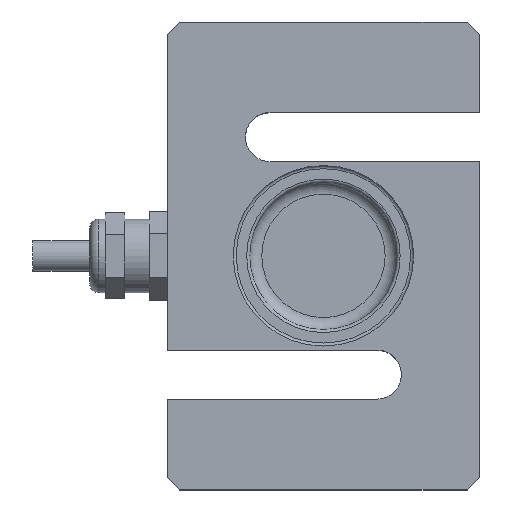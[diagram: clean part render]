
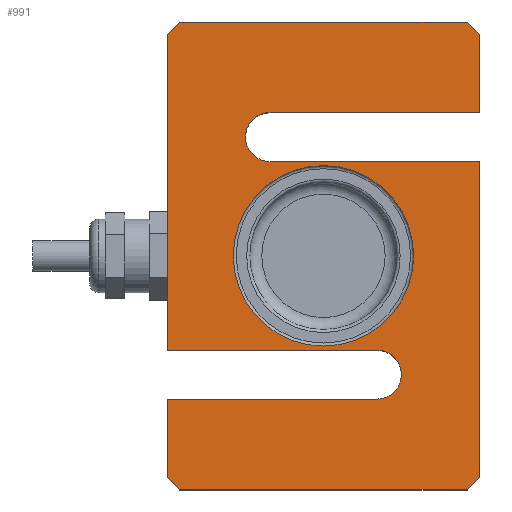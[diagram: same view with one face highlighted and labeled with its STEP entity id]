
A CAD part, top view. The second image highlights one B-rep face of the part: STEP entity #991.
In plain terms, the highlighted planar face has unit normal (0, 0, 1).
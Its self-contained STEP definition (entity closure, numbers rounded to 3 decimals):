
#20=FACE_BOUND('',#337,.T.);
#44=PLANE('',#1104);
#71=LINE('',#1555,#158);
#73=LINE('',#1559,#160);
#79=LINE('',#1576,#166);
#81=LINE('',#1580,#168);
#84=LINE('',#1588,#171);
#89=LINE('',#1599,#176);
#91=LINE('',#1603,#178);
#94=LINE('',#1608,#181);
#97=LINE('',#1612,#184);
#99=LINE('',#1617,#186);
#101=LINE('',#1622,#188);
#105=LINE('',#1629,#192);
#109=LINE('',#1637,#196);
#110=LINE('',#1639,#197);
#158=VECTOR('',#1258,1000.);
#160=VECTOR('',#1262,1000.);
#166=VECTOR('',#1276,1000.);
#168=VECTOR('',#1280,1000.);
#171=VECTOR('',#1287,1000.);
#176=VECTOR('',#1294,1000.);
#178=VECTOR('',#1298,1000.);
#181=VECTOR('',#1303,1000.);
#184=VECTOR('',#1308,1000.);
#186=VECTOR('',#1312,1000.);
#188=VECTOR('',#1316,1000.);
#192=VECTOR('',#1322,1000.);
#196=VECTOR('',#1334,1000.);
#197=VECTOR('',#1337,1000.);
#276=FACE_OUTER_BOUND('',#336,.T.);
#336=EDGE_LOOP('',(#830,#831,#832,#833,#834,#835,#836,#837,#838,#839,#840,
#841,#842,#843,#844,#845));
#337=EDGE_LOOP('',(#846,#847));
#378=CIRCLE('',#1048,14.7);
#379=CIRCLE('',#1049,14.7);
#399=CIRCLE('',#1075,4.);
#406=CIRCLE('',#1087,4.);
#433=VERTEX_POINT('',#1481);
#434=VERTEX_POINT('',#1483);
#451=VERTEX_POINT('',#1529);
#452=VERTEX_POINT('',#1530);
#461=VERTEX_POINT('',#1552);
#462=VERTEX_POINT('',#1554);
#463=VERTEX_POINT('',#1558);
#467=VERTEX_POINT('',#1567);
#468=VERTEX_POINT('',#1569);
#470=VERTEX_POINT('',#1575);
#471=VERTEX_POINT('',#1579);
#474=VERTEX_POINT('',#1587);
#478=VERTEX_POINT('',#1596);
#479=VERTEX_POINT('',#1598);
#480=VERTEX_POINT('',#1602);
#483=VERTEX_POINT('',#1616);
#484=VERTEX_POINT('',#1620);
#485=VERTEX_POINT('',#1621);
#540=EDGE_CURVE('',#433,#434,#378,.T.);
#541=EDGE_CURVE('',#434,#433,#379,.T.);
#563=EDGE_CURVE('',#451,#452,#399,.T.);
#574=EDGE_CURVE('',#462,#461,#71,.T.);
#576=EDGE_CURVE('',#461,#463,#73,.T.);
#581=EDGE_CURVE('',#468,#467,#406,.T.);
#584=EDGE_CURVE('',#470,#468,#79,.T.);
#586=EDGE_CURVE('',#471,#470,#81,.T.);
#590=EDGE_CURVE('',#474,#471,#84,.T.);
#595=EDGE_CURVE('',#479,#478,#89,.T.);
#597=EDGE_CURVE('',#478,#480,#91,.T.);
#600=EDGE_CURVE('',#480,#474,#94,.T.);
#603=EDGE_CURVE('',#452,#479,#97,.T.);
#605=EDGE_CURVE('',#483,#451,#99,.T.);
#607=EDGE_CURVE('',#484,#485,#101,.T.);
#611=EDGE_CURVE('',#485,#483,#105,.T.);
#615=EDGE_CURVE('',#467,#462,#109,.T.);
#616=EDGE_CURVE('',#463,#484,#110,.T.);
#830=ORIENTED_EDGE('',*,*,#616,.T.);
#831=ORIENTED_EDGE('',*,*,#607,.T.);
#832=ORIENTED_EDGE('',*,*,#611,.T.);
#833=ORIENTED_EDGE('',*,*,#605,.T.);
#834=ORIENTED_EDGE('',*,*,#563,.T.);
#835=ORIENTED_EDGE('',*,*,#603,.T.);
#836=ORIENTED_EDGE('',*,*,#595,.T.);
#837=ORIENTED_EDGE('',*,*,#597,.T.);
#838=ORIENTED_EDGE('',*,*,#600,.T.);
#839=ORIENTED_EDGE('',*,*,#590,.T.);
#840=ORIENTED_EDGE('',*,*,#586,.T.);
#841=ORIENTED_EDGE('',*,*,#584,.T.);
#842=ORIENTED_EDGE('',*,*,#581,.T.);
#843=ORIENTED_EDGE('',*,*,#615,.T.);
#844=ORIENTED_EDGE('',*,*,#574,.T.);
#845=ORIENTED_EDGE('',*,*,#576,.T.);
#846=ORIENTED_EDGE('',*,*,#541,.F.);
#847=ORIENTED_EDGE('',*,*,#540,.F.);
#991=ADVANCED_FACE('',(#276,#20),#44,.T.);
#1048=AXIS2_PLACEMENT_3D('',#1484,#1179,#1180);
#1049=AXIS2_PLACEMENT_3D('',#1485,#1181,#1182);
#1075=AXIS2_PLACEMENT_3D('',#1531,#1235,#1236);
#1087=AXIS2_PLACEMENT_3D('',#1570,#1270,#1271);
#1104=AXIS2_PLACEMENT_3D('',#1640,#1338,#1339);
#1179=DIRECTION('center_axis',(0.,0.,1.));
#1180=DIRECTION('ref_axis',(1.,0.,0.));
#1181=DIRECTION('center_axis',(0.,0.,1.));
#1182=DIRECTION('ref_axis',(1.,0.,0.));
#1235=DIRECTION('center_axis',(0.,0.,-1.));
#1236=DIRECTION('ref_axis',(1.,0.,0.));
#1258=DIRECTION('',(0.,-1.,0.));
#1262=DIRECTION('',(0.707,-0.707,0.));
#1270=DIRECTION('center_axis',(0.,0.,-1.));
#1271=DIRECTION('ref_axis',(1.,0.,0.));
#1276=DIRECTION('',(1.,0.,0.));
#1280=DIRECTION('',(0.,-1.,0.));
#1287=DIRECTION('',(-0.707,-0.707,0.));
#1294=DIRECTION('',(0.,1.,0.));
#1298=DIRECTION('',(-0.707,0.707,0.));
#1303=DIRECTION('',(-1.,0.,0.));
#1308=DIRECTION('',(1.,0.,0.));
#1312=DIRECTION('',(-1.,0.,0.));
#1316=DIRECTION('',(0.707,0.707,0.));
#1322=DIRECTION('',(0.,1.,0.));
#1334=DIRECTION('',(-1.,0.,0.));
#1337=DIRECTION('',(1.,0.,0.));
#1338=DIRECTION('center_axis',(0.,0.,1.));
#1339=DIRECTION('ref_axis',(1.,0.,0.));
#1481=CARTESIAN_POINT('',(-12.549,1.936,90.3));
#1483=CARTESIAN_POINT('',(16.851,1.936,90.3));
#1484=CARTESIAN_POINT('Origin',(2.151,1.936,90.3));
#1485=CARTESIAN_POINT('Origin',(2.151,1.936,90.3));
#1529=CARTESIAN_POINT('',(-6.549,17.286,90.3));
#1530=CARTESIAN_POINT('',(-6.549,25.286,90.3));
#1531=CARTESIAN_POINT('Origin',(-6.549,21.286,90.3));
#1552=CARTESIAN_POINT('',(-23.249,-34.164,90.3));
#1554=CARTESIAN_POINT('',(-23.249,-21.414,90.3));
#1555=CARTESIAN_POINT('',(-23.249,-21.414,90.3));
#1558=CARTESIAN_POINT('',(-21.249,-36.164,90.3));
#1559=CARTESIAN_POINT('',(-14.574,-42.839,90.3));
#1567=CARTESIAN_POINT('',(10.851,-21.414,90.3));
#1569=CARTESIAN_POINT('',(10.851,-13.414,90.3));
#1570=CARTESIAN_POINT('Origin',(10.851,-17.414,90.3));
#1575=CARTESIAN_POINT('',(-23.249,-13.414,90.3));
#1576=CARTESIAN_POINT('',(-23.249,-13.414,90.3));
#1579=CARTESIAN_POINT('',(-23.249,38.036,90.3));
#1580=CARTESIAN_POINT('',(-23.249,40.036,90.3));
#1587=CARTESIAN_POINT('',(-21.249,40.036,90.3));
#1588=CARTESIAN_POINT('',(-33.924,27.361,90.3));
#1596=CARTESIAN_POINT('',(27.551,38.036,90.3));
#1598=CARTESIAN_POINT('',(27.551,25.286,90.3));
#1599=CARTESIAN_POINT('',(27.551,25.286,90.3));
#1602=CARTESIAN_POINT('',(25.551,40.036,90.3));
#1603=CARTESIAN_POINT('',(46.926,18.661,90.3));
#1608=CARTESIAN_POINT('',(27.551,40.036,90.3));
#1612=CARTESIAN_POINT('',(-6.549,25.286,90.3));
#1616=CARTESIAN_POINT('',(27.551,17.286,90.3));
#1617=CARTESIAN_POINT('',(27.551,17.286,90.3));
#1620=CARTESIAN_POINT('',(25.551,-36.164,90.3));
#1621=CARTESIAN_POINT('',(27.551,-34.164,90.3));
#1622=CARTESIAN_POINT('',(27.576,-34.139,90.3));
#1629=CARTESIAN_POINT('',(27.551,-36.164,90.3));
#1637=CARTESIAN_POINT('',(10.851,-21.414,90.3));
#1639=CARTESIAN_POINT('',(-23.249,-36.164,90.3));
#1640=CARTESIAN_POINT('Origin',(10.851,-17.414,90.3));
